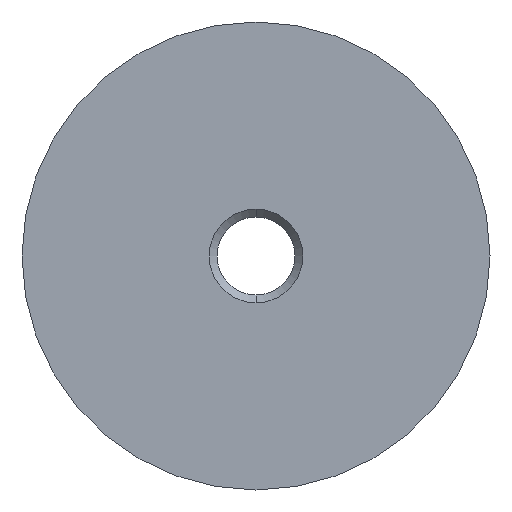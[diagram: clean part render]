
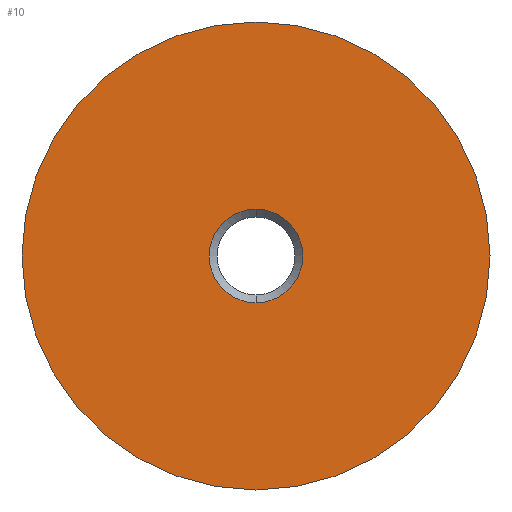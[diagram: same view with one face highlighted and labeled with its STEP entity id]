
A CAD part, front view. The second image highlights one B-rep face of the part: STEP entity #10.
In plain terms, the highlighted planar face has unit normal (0, -1, 0).
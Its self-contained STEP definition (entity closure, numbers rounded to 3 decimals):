
#1 = PLANE ( 'NONE',  #406 ) ;
#5 = CARTESIAN_POINT ( 'NONE',  ( 0., -5., 3. ) ) ;
#10 = ADVANCED_FACE ( 'NONE', ( #296, #84 ), #1, .T. ) ;
#11 = CIRCLE ( 'NONE', #423, 15. ) ;
#15 = ORIENTED_EDGE ( 'NONE', *, *, #274, .T. ) ;
#44 = AXIS2_PLACEMENT_3D ( 'NONE', #227, #238, #237 ) ;
#47 = DIRECTION ( 'NONE',  ( 0., 0., -1. ) ) ;
#63 = EDGE_CURVE ( 'NONE', #381, #328, #152, .T. ) ;
#70 = AXIS2_PLACEMENT_3D ( 'NONE', #355, #363, #47 ) ;
#80 = DIRECTION ( 'NONE',  ( 0., -1., 0. ) ) ;
#84 = FACE_OUTER_BOUND ( 'NONE', #304, .T. ) ;
#92 = CIRCLE ( 'NONE', #44, 3. ) ;
#104 = ORIENTED_EDGE ( 'NONE', *, *, #391, .F. ) ;
#121 = VERTEX_POINT ( 'NONE', #5 ) ;
#127 = DIRECTION ( 'NONE',  ( 0., -1., 0. ) ) ;
#133 = VERTEX_POINT ( 'NONE', #399 ) ;
#144 = CARTESIAN_POINT ( 'NONE',  ( 0., -5., 0. ) ) ;
#151 = ORIENTED_EDGE ( 'NONE', *, *, #63, .T. ) ;
#152 = CIRCLE ( 'NONE', #183, 15. ) ;
#156 = CIRCLE ( 'NONE', #70, 3. ) ;
#172 = EDGE_LOOP ( 'NONE', ( #104, #390 ) ) ;
#183 = AXIS2_PLACEMENT_3D ( 'NONE', #144, #127, #416 ) ;
#227 = CARTESIAN_POINT ( 'NONE',  ( 0., -5., 0. ) ) ;
#237 = DIRECTION ( 'NONE',  ( 0., 0., -1. ) ) ;
#238 = DIRECTION ( 'NONE',  ( 0., -1., 0. ) ) ;
#240 = DIRECTION ( 'NONE',  ( 1., 0., 0. ) ) ;
#274 = EDGE_CURVE ( 'NONE', #328, #381, #11, .T. ) ;
#281 = CARTESIAN_POINT ( 'NONE',  ( 15., -5., 0. ) ) ;
#296 = FACE_BOUND ( 'NONE', #172, .T. ) ;
#304 = EDGE_LOOP ( 'NONE', ( #15, #151 ) ) ;
#323 = EDGE_CURVE ( 'NONE', #121, #133, #92, .T. ) ;
#328 = VERTEX_POINT ( 'NONE', #374 ) ;
#336 = DIRECTION ( 'NONE',  ( 1., 0., 0. ) ) ;
#352 = DIRECTION ( 'NONE',  ( 0., -1., 0. ) ) ;
#355 = CARTESIAN_POINT ( 'NONE',  ( 0., -5., 0. ) ) ;
#360 = CARTESIAN_POINT ( 'NONE',  ( 0., -5., 0. ) ) ;
#363 = DIRECTION ( 'NONE',  ( 0., -1., 0. ) ) ;
#374 = CARTESIAN_POINT ( 'NONE',  ( -15., -5., 0. ) ) ;
#381 = VERTEX_POINT ( 'NONE', #281 ) ;
#390 = ORIENTED_EDGE ( 'NONE', *, *, #323, .F. ) ;
#391 = EDGE_CURVE ( 'NONE', #133, #121, #156, .T. ) ;
#394 = CARTESIAN_POINT ( 'NONE',  ( 0., -5., 0. ) ) ;
#399 = CARTESIAN_POINT ( 'NONE',  ( 0., -5., -3. ) ) ;
#406 = AXIS2_PLACEMENT_3D ( 'NONE', #394, #80, #240 ) ;
#416 = DIRECTION ( 'NONE',  ( 1., 0., 0. ) ) ;
#423 = AXIS2_PLACEMENT_3D ( 'NONE', #360, #352, #336 ) ;
